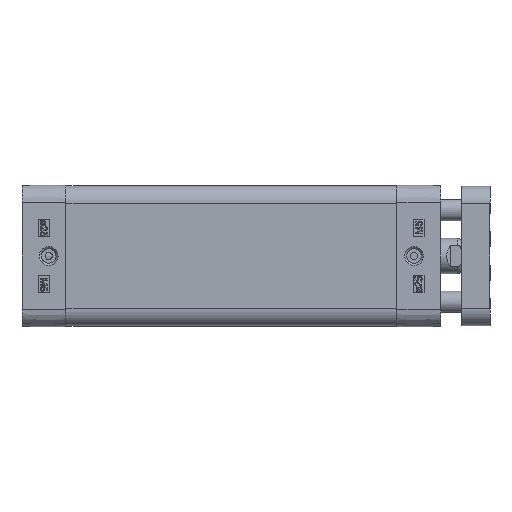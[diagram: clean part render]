
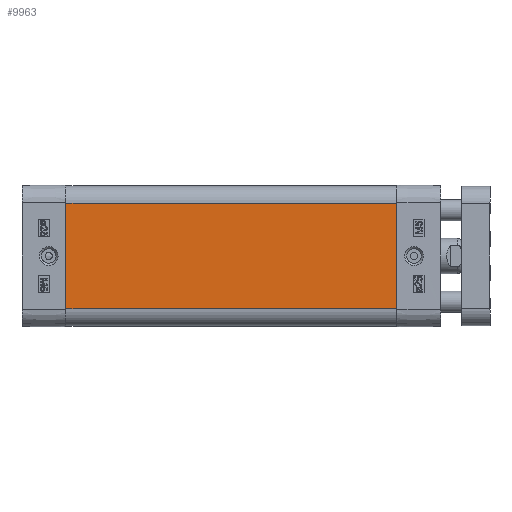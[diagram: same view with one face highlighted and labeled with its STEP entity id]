
A CAD part, left-side view. The second image highlights one B-rep face of the part: STEP entity #9963.
In plain terms, the highlighted planar face has unit normal (-1, 0, 0).
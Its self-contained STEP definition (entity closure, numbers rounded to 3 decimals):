
#9882=CARTESIAN_POINT('',(-20.,0.0,-15.));
#9883=VERTEX_POINT('',#9882);
#9891=CARTESIAN_POINT('',(-20.,0.0,15.0));
#9892=VERTEX_POINT('',#9891);
#9893=CARTESIAN_POINT('',(-20.,0.0,-15.));
#9894=DIRECTION('',(0.0,0.0,1.0));
#9895=VECTOR('',#9894,30.);
#9896=LINE('',#9893,#9895);
#9897=EDGE_CURVE('',#9883,#9892,#9896,.T.);
#9933=CARTESIAN_POINT('',(-20.,0.0,-15.));
#9934=DIRECTION('',(-1.0,0.0,0.0));
#9935=DIRECTION('',(0.0,0.0,1.0));
#9936=AXIS2_PLACEMENT_3D('',#9933,#9934,#9935);
#9937=PLANE('',#9936);
#9938=CARTESIAN_POINT('',(-20.,-94.0,-15.));
#9939=VERTEX_POINT('',#9938);
#9940=CARTESIAN_POINT('',(-20.,-94.0,15.0));
#9941=VERTEX_POINT('',#9940);
#9942=CARTESIAN_POINT('',(-20.,-94.0,-15.));
#9943=DIRECTION('',(0.0,0.0,1.0));
#9944=VECTOR('',#9943,30.);
#9945=LINE('',#9942,#9944);
#9946=EDGE_CURVE('',#9939,#9941,#9945,.T.);
#9947=ORIENTED_EDGE('',*,*,#9946,.T.);
#9948=CARTESIAN_POINT('',(-20.,0.0,15.0));
#9949=DIRECTION('',(0.0,-1.0,0.0));
#9950=VECTOR('',#9949,94.0);
#9951=LINE('',#9948,#9950);
#9952=EDGE_CURVE('',#9892,#9941,#9951,.T.);
#9953=ORIENTED_EDGE('',*,*,#9952,.F.);
#9954=ORIENTED_EDGE('',*,*,#9897,.F.);
#9955=CARTESIAN_POINT('',(-20.,0.0,-15.));
#9956=DIRECTION('',(0.0,-1.0,0.0));
#9957=VECTOR('',#9956,94.0);
#9958=LINE('',#9955,#9957);
#9959=EDGE_CURVE('',#9883,#9939,#9958,.T.);
#9960=ORIENTED_EDGE('',*,*,#9959,.T.);
#9961=EDGE_LOOP('',(#9947,#9953,#9954,#9960));
#9962=FACE_OUTER_BOUND('',#9961,.T.);
#9963=ADVANCED_FACE('',(#9962),#9937,.T.);
